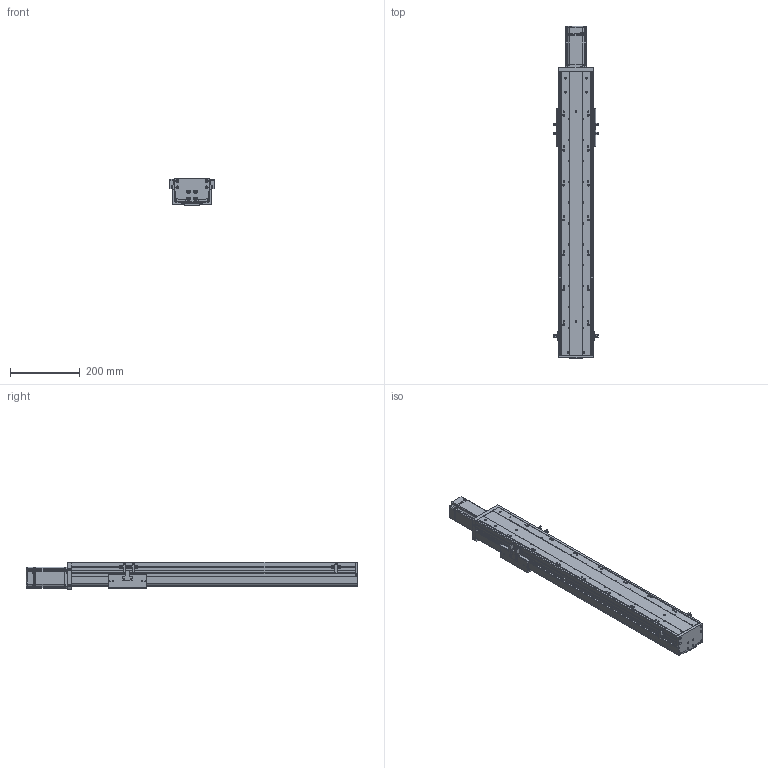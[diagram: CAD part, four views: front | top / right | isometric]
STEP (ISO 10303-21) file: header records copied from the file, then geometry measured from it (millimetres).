
FILE_DESCRIPTION (( 'STEP AP203' ), '1' );
FILE_NAME ('RY100FBS-L1610-300-MK(15双轨）.SLDASM_550.step', '2021-02-22T08:44:18', ( '盈信电脑' ), ( '东莞市道滘镇水果街19号' ), 'SwSTEP 2.0', 'SolidWorks 2012', '' );
FILE_SCHEMA (( 'CONFIG_CONTROL_DESIGN' ));
Length unit declared in the file: millimetre
Products named in the file (12): RY100FBS-L1610-300-MK(15双轨）.SLDASM_550; RY100FB-遵嫖萇覜茼え; 侂狟400W侜督萇儂; 覜茼ん672; RY100FBS-前盖板(15双轨）; RY100FBS-后盖板(15双轨）; 15; 滅袉蝶18-24; 滅袉蝶18-15; RY100FBS-铝滑块（16丝杆）; RY100FBS-300-上盖板(15双轨）_550; RY100FBS-300型材底座(15双轨）_550
Assembly tree (18 placements, depth 3):
  RY100FBS-L1610-300-MK(15双轨）.SLDASM_550
    RY100FBS-300型材底座(15双轨）_550
    滅袉蝶18-24  x2
    滅袉蝶18-15
    RY100FBS-铝滑块（16丝杆）
    RY100FBS-300-上盖板(15双轨）_550
    RY100FBS-前盖板(15双轨）
    RY100FBS-后盖板(15双轨）
    侂狟400W侜督萇儂
      15
    RY100FB-遵嫖萇覜茼え  x2
    覜茼ん672  x6
Bounding box: 127.4 x 950.5 x 78.75 mm (x, y, z)
Volume: 2287323 mm3; surface area: 788326.4 mm2
Topology: 17 solids, 17 shells, 1771 faces, 5029 edges, 3296 vertices
Faces by surface type: plane 869, cylinder 770, cone 114, bspline 18
Entity records: 46630 total; most frequent: CARTESIAN_POINT 9761, DIRECTION 7516, ORIENTED_EDGE 7402, EDGE_CURVE 3701, AXIS2_PLACEMENT_3D 2713, VERTEX_POINT 2444, VECTOR 2090, LINE 2090
